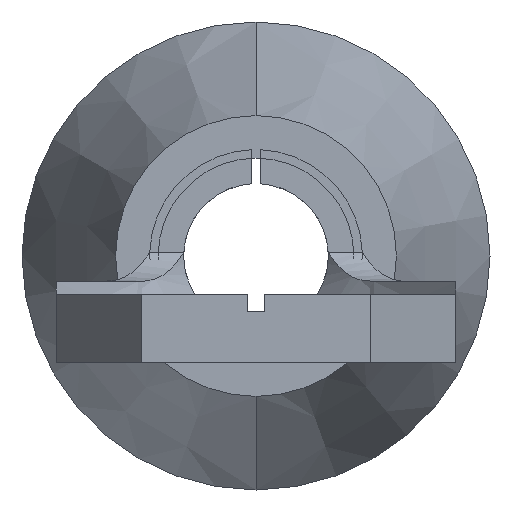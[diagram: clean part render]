
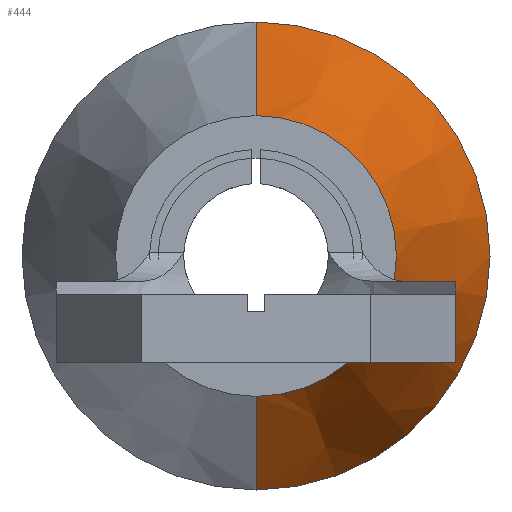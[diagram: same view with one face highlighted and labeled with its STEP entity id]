
A CAD part, front view. The second image highlights one B-rep face of the part: STEP entity #444.
In plain terms, the highlighted conical face has half-angle 18.435 degrees and reference radius 1.65 mm.
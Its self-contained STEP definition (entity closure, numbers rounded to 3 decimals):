
#2 = DIRECTION ( 'NONE',  ( 0., 0., -1. ) ) ;
#16 = CIRCLE ( 'NONE', #251, 1.65 ) ;
#190 = ORIENTED_EDGE ( 'NONE', *, *, #838, .F. ) ;
#226 = CIRCLE ( 'NONE', #655, 2.75 ) ;
#251 = AXIS2_PLACEMENT_3D ( 'NONE', #1574, #781, #1706 ) ;
#266 = CARTESIAN_POINT ( 'NONE',  ( 0., 7.3, -2.75 ) ) ;
#281 = CARTESIAN_POINT ( 'NONE',  ( 0., 7.3, 2.75 ) ) ;
#305 = DIRECTION ( 'NONE',  ( 0., 0.949, 0.316 ) ) ;
#337 = LINE ( 'NONE', #422, #1357 ) ;
#352 = ORIENTED_EDGE ( 'NONE', *, *, #1548, .T. ) ;
#368 = VECTOR ( 'NONE', #305, 1000. ) ;
#418 = EDGE_CURVE ( 'NONE', #577, #719, #1079, .T. ) ;
#422 = CARTESIAN_POINT ( 'NONE',  ( 0., 4., -1.65 ) ) ;
#438 = CARTESIAN_POINT ( 'NONE',  ( 0., 4., 0. ) ) ;
#444 = ADVANCED_FACE ( 'NONE', ( #1400 ), #1001, .T. ) ;
#472 = EDGE_LOOP ( 'NONE', ( #190, #352, #992, #755 ) ) ;
#487 = VERTEX_POINT ( 'NONE', #1123 ) ;
#559 = DIRECTION ( 'NONE',  ( 0., 0.949, -0.316 ) ) ;
#577 = VERTEX_POINT ( 'NONE', #1073 ) ;
#655 = AXIS2_PLACEMENT_3D ( 'NONE', #1593, #794, #2 ) ;
#719 = VERTEX_POINT ( 'NONE', #281 ) ;
#755 = ORIENTED_EDGE ( 'NONE', *, *, #418, .F. ) ;
#775 = CARTESIAN_POINT ( 'NONE',  ( 0., 4., 1.65 ) ) ;
#781 = DIRECTION ( 'NONE',  ( 0., -1., 0. ) ) ;
#794 = DIRECTION ( 'NONE',  ( 0., -1., 0. ) ) ;
#838 = EDGE_CURVE ( 'NONE', #487, #577, #16, .T. ) ;
#839 = DIRECTION ( 'NONE',  ( 0., 0., 1. ) ) ;
#992 = ORIENTED_EDGE ( 'NONE', *, *, #1320, .T. ) ;
#1001 = CONICAL_SURFACE ( 'NONE', #1231, 1.65, 0.322 ) ;
#1073 = CARTESIAN_POINT ( 'NONE',  ( 0., 4., 1.65 ) ) ;
#1079 = LINE ( 'NONE', #775, #368 ) ;
#1123 = CARTESIAN_POINT ( 'NONE',  ( 0., 4., -1.65 ) ) ;
#1231 = AXIS2_PLACEMENT_3D ( 'NONE', #438, #1506, #839 ) ;
#1320 = EDGE_CURVE ( 'NONE', #1492, #719, #226, .T. ) ;
#1357 = VECTOR ( 'NONE', #559, 1000. ) ;
#1400 = FACE_OUTER_BOUND ( 'NONE', #472, .T. ) ;
#1492 = VERTEX_POINT ( 'NONE', #266 ) ;
#1506 = DIRECTION ( 'NONE',  ( 0., 1., 0. ) ) ;
#1548 = EDGE_CURVE ( 'NONE', #487, #1492, #337, .T. ) ;
#1574 = CARTESIAN_POINT ( 'NONE',  ( 0., 4., 0. ) ) ;
#1593 = CARTESIAN_POINT ( 'NONE',  ( 0., 7.3, 0. ) ) ;
#1706 = DIRECTION ( 'NONE',  ( 0., 0., -1. ) ) ;
